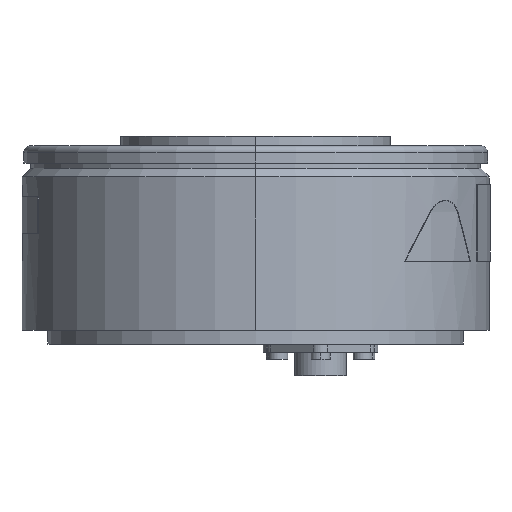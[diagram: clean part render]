
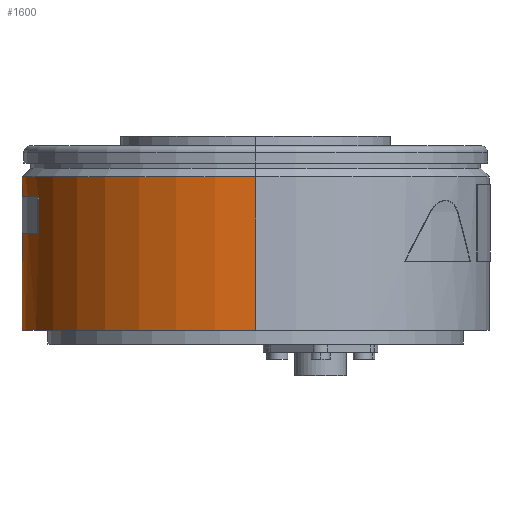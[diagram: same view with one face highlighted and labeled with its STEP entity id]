
A CAD part, left-side view. The second image highlights one B-rep face of the part: STEP entity #1600.
In plain terms, the highlighted cylindrical face has radius 67.5 mm (diameter 135 mm), a partial arc.
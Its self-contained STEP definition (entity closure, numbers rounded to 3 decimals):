
#1578 = VERTEX_POINT ( 'NONE', #5782 ) ;
#1580 = EDGE_CURVE ( 'NONE', #1581, #1578, #5781, .T. ) ;
#1581 = VERTEX_POINT ( 'NONE', #5840 ) ;
#1600 = ADVANCED_FACE ( 'NONE', ( #5860, #5859 ), #5858, .T. ) ;
#1601 = ORIENTED_EDGE ( 'NONE', *, *, #1602, .T. ) ;
#1602 = EDGE_CURVE ( 'NONE', #1603, #1604, #5857, .T. ) ;
#1603 = VERTEX_POINT ( 'NONE', #5849 ) ;
#1604 = VERTEX_POINT ( 'NONE', #5848 ) ;
#1605 = ORIENTED_EDGE ( 'NONE', *, *, #1606, .T. ) ;
#1606 = EDGE_CURVE ( 'NONE', #1604, #1607, #5847, .T. ) ;
#1607 = VERTEX_POINT ( 'NONE', #5906 ) ;
#1608 = ORIENTED_EDGE ( 'NONE', *, *, #1609, .T. ) ;
#1609 = EDGE_CURVE ( 'NONE', #1607, #1610, #5905, .T. ) ;
#1610 = VERTEX_POINT ( 'NONE', #5901 ) ;
#1611 = ORIENTED_EDGE ( 'NONE', *, *, #1612, .T. ) ;
#1612 = EDGE_CURVE ( 'NONE', #1610, #1603, #5900, .T. ) ;
#1613 = EDGE_LOOP ( 'NONE', ( #1672, #1673, #1676, #1679 ) ) ;
#1628 = EDGE_LOOP ( 'NONE', ( #1601, #1605, #1608, #1611 ) ) ;
#1672 = ORIENTED_EDGE ( 'NONE', *, *, #1580, .T. ) ;
#1673 = ORIENTED_EDGE ( 'NONE', *, *, #1674, .T. ) ;
#1674 = EDGE_CURVE ( 'NONE', #1578, #1675, #5972, .T. ) ;
#1675 = VERTEX_POINT ( 'NONE', #6033 ) ;
#1676 = ORIENTED_EDGE ( 'NONE', *, *, #1677, .F. ) ;
#1677 = EDGE_CURVE ( 'NONE', #1678, #1675, #6032, .T. ) ;
#1678 = VERTEX_POINT ( 'NONE', #6027 ) ;
#1679 = ORIENTED_EDGE ( 'NONE', *, *, #1680, .F. ) ;
#1680 = EDGE_CURVE ( 'NONE', #1581, #1678, #6026, .T. ) ;
#5780 = CARTESIAN_POINT ( 'NONE',  ( 0., 0., 48.3 ) ) ;
#5781 = CIRCLE ( 'NONE', #5843, 67.5 ) ;
#5782 = CARTESIAN_POINT ( 'NONE',  ( 67.5, 0., 48.3 ) ) ;
#5840 = CARTESIAN_POINT ( 'NONE',  ( -67.5, 0., 48.3 ) ) ;
#5841 = DIRECTION ( 'NONE',  ( -1., 0., 0. ) ) ;
#5842 = DIRECTION ( 'NONE',  ( 0., 0., -1. ) ) ;
#5843 = AXIS2_PLACEMENT_3D ( 'NONE', #5780, #5842, #5841 ) ;
#5844 = DIRECTION ( 'NONE',  ( 0., 0., 1. ) ) ;
#5845 = CARTESIAN_POINT ( 'NONE',  ( 0., 0., 42.5 ) ) ;
#5846 = AXIS2_PLACEMENT_3D ( 'NONE', #5845, #5844, #5907 ) ;
#5847 = CIRCLE ( 'NONE', #5846, 67.5 ) ;
#5848 = CARTESIAN_POINT ( 'NONE',  ( 25., 62.7, 42.5 ) ) ;
#5849 = CARTESIAN_POINT ( 'NONE',  ( 25., 62.7, 32. ) ) ;
#5850 = DIRECTION ( 'NONE',  ( 0., 0., 1. ) ) ;
#5851 = VECTOR ( 'NONE', #5850, 1000. ) ;
#5852 = CARTESIAN_POINT ( 'NONE',  ( 25., 62.7, -59.236 ) ) ;
#5853 = DIRECTION ( 'NONE',  ( -1., 0., 0. ) ) ;
#5854 = DIRECTION ( 'NONE',  ( 0., 0., -1. ) ) ;
#5855 = CARTESIAN_POINT ( 'NONE',  ( 0., 0., -59.236 ) ) ;
#5856 = AXIS2_PLACEMENT_3D ( 'NONE', #5855, #5854, #5853 ) ;
#5857 = LINE ( 'NONE', #5852, #5851 ) ;
#5858 = CYLINDRICAL_SURFACE ( 'NONE', #5856, 67.5 ) ;
#5859 = FACE_OUTER_BOUND ( 'NONE', #1613, .T. ) ;
#5860 = FACE_BOUND ( 'NONE', #1628, .T. ) ;
#5896 = DIRECTION ( 'NONE',  ( 1., 0., 0. ) ) ;
#5897 = DIRECTION ( 'NONE',  ( 0., 0., -1. ) ) ;
#5898 = CARTESIAN_POINT ( 'NONE',  ( 0., 0., 32. ) ) ;
#5899 = AXIS2_PLACEMENT_3D ( 'NONE', #5898, #5897, #5896 ) ;
#5900 = CIRCLE ( 'NONE', #5899, 67.5 ) ;
#5901 = CARTESIAN_POINT ( 'NONE',  ( -25., 62.7, 32. ) ) ;
#5902 = DIRECTION ( 'NONE',  ( 0., 0., -1. ) ) ;
#5903 = VECTOR ( 'NONE', #5902, 1000. ) ;
#5904 = CARTESIAN_POINT ( 'NONE',  ( -25., 62.7, -59.236 ) ) ;
#5905 = LINE ( 'NONE', #5904, #5903 ) ;
#5906 = CARTESIAN_POINT ( 'NONE',  ( -25., 62.7, 42.5 ) ) ;
#5907 = DIRECTION ( 'NONE',  ( -1., 0., 0. ) ) ;
#5970 = VECTOR ( 'NONE', #6034, 1000. ) ;
#5971 = CARTESIAN_POINT ( 'NONE',  ( 67.5, 0., -59.236 ) ) ;
#5972 = LINE ( 'NONE', #5971, #5970 ) ;
#6023 = DIRECTION ( 'NONE',  ( 0., 0., -1. ) ) ;
#6024 = VECTOR ( 'NONE', #6023, 1000. ) ;
#6025 = CARTESIAN_POINT ( 'NONE',  ( -67.5, 0., -59.236 ) ) ;
#6026 = LINE ( 'NONE', #6025, #6024 ) ;
#6027 = CARTESIAN_POINT ( 'NONE',  ( -67.5, 0., 4. ) ) ;
#6028 = DIRECTION ( 'NONE',  ( -1., 0., 0. ) ) ;
#6029 = DIRECTION ( 'NONE',  ( 0., 0., -1. ) ) ;
#6030 = CARTESIAN_POINT ( 'NONE',  ( 0., 0., 4. ) ) ;
#6031 = AXIS2_PLACEMENT_3D ( 'NONE', #6030, #6029, #6028 ) ;
#6032 = CIRCLE ( 'NONE', #6031, 67.5 ) ;
#6033 = CARTESIAN_POINT ( 'NONE',  ( 67.5, 0., 4. ) ) ;
#6034 = DIRECTION ( 'NONE',  ( 0., 0., -1. ) ) ;
